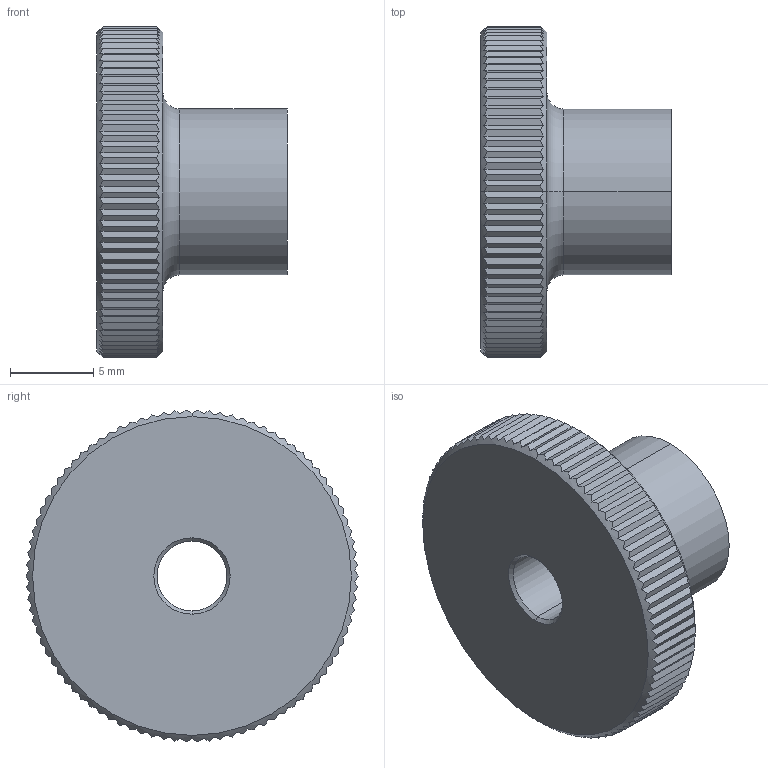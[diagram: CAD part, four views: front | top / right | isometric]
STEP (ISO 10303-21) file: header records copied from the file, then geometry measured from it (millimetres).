
FILE_DESCRIPTION (( 'STEP AP203' ), '1' );
FILE_NAME ('37100.W0005.step', '2015-11-25T13:24:22', ( 'User' ), ( '' ), 'SwSTEP 2.0', 'SolidWorks 2009', '' );
FILE_SCHEMA (( 'CONFIG_CONTROL_DESIGN' ));
Length unit declared in the file: millimetre
Products named in the file (1): 37100.W0005
Bounding box: 11.5 x 20 x 19.99 mm (x, y, z)
Volume: 1662.4 mm3; surface area: 1217.2 mm2
Topology: 1 solids, 1 shells, 197 faces, 572 edges, 378 vertices
Faces by surface type: plane 183, cone 8, cylinder 4, torus 2
Entity records: 6807 total; most frequent: CARTESIAN_POINT 2228, ORIENTED_EDGE 1144, DIRECTION 628, EDGE_CURVE 572, VERTEX_POINT 378, B_SPLINE_CURVE_WITH_KNOTS 360, AXIS2_PLACEMENT_3D 218, EDGE_LOOP 200
